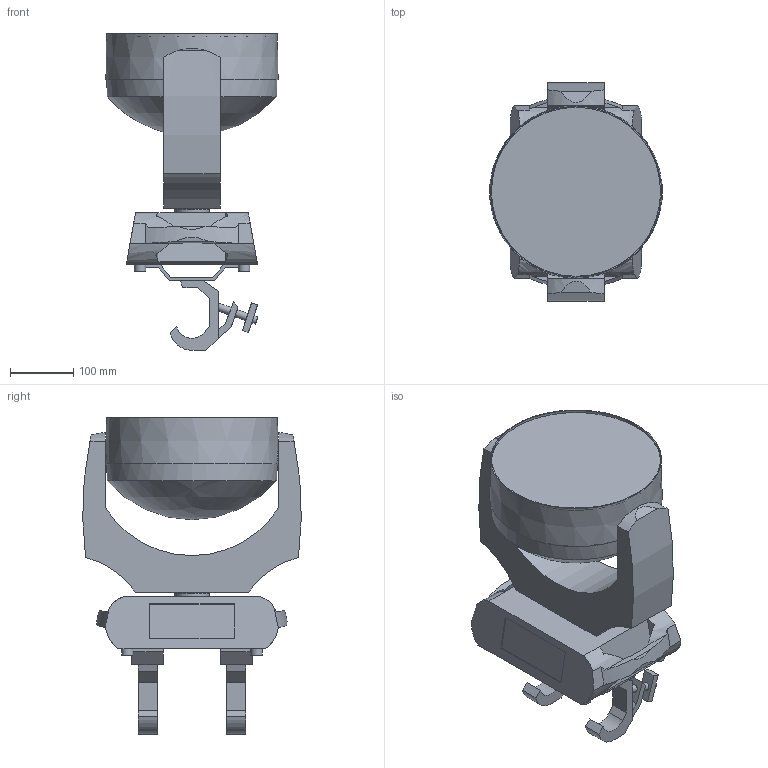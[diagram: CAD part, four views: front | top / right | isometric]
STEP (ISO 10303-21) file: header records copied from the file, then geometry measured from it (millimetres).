
FILE_DESCRIPTION( ( 'Unknown' ), '1' );
FILE_NAME( 'K:/ROBE-LED/17 Robin 600 LED Wash/11 2D_3D symbols/3D data/3D_Robin600LEDWash_00.stp', 'Unknown', ( '*' ), ( '*' ), 'PSStep 15.0.49', 'SolidEdge', ' ' );
FILE_SCHEMA( ( 'AUTOMOTIVE_DESIGN { 1 0 10303 214 1 1 1 1 }' ) );
Length unit declared in the file: millimetre
Products named in the file (7): Omega_SlimClamp_00; Omega+SlimClamp; Clamp Doughty Slimline QT; Assem1; Základna; Hlava600; Rameno600
Assembly tree (7 placements, depth 3):
  Assem1
    Základna
    Hlava600
    Rameno600
    Omega_SlimClamp_00  x2
      Omega+SlimClamp
      Clamp Doughty Slimline QT
Bounding box: 271.62 x 344.82 x 499.6 mm (x, y, z)
Volume: 14695898.1 mm3; surface area: 716930.9 mm2
Topology: 7 solids, 7 shells, 189 faces, 490 edges, 329 vertices
Faces by surface type: plane 133, cylinder 45, extrusion 8, cone 2, sphere 1
Full cylindrical faces by diameter (mm): 11 x4, 12 x8, 13 x6, 18 x4, 35 x3, 38 x1, 55 x1, 266.811 x1
Entity records: 5933 total; most frequent: CARTESIAN_POINT 1452, DIRECTION 644, ORIENTED_EDGE 640, EDGE_CURVE 320, VERTEX_POINT 227, AXIS2_PLACEMENT_3D 216, VECTOR 212, LINE 204
